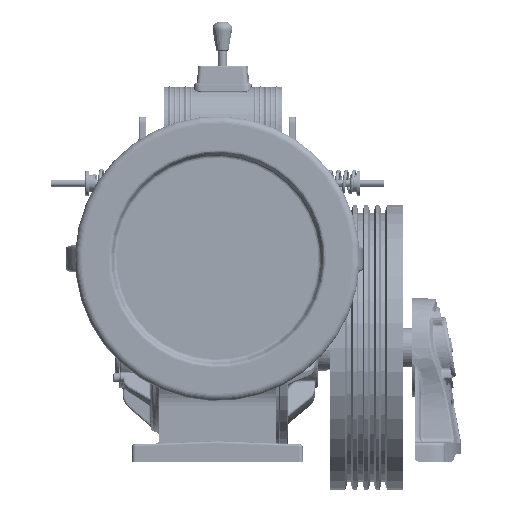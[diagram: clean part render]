
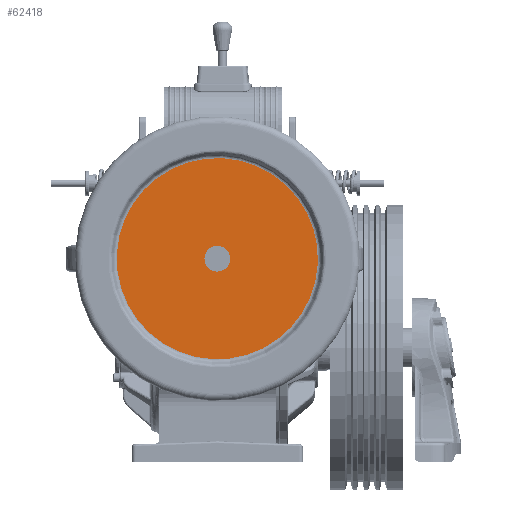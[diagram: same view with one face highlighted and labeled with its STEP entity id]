
A CAD part, front view. The second image highlights one B-rep face of the part: STEP entity #62418.
In plain terms, the highlighted planar face has unit normal (0, -1, 0).
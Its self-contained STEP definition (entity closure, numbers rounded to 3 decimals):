
#4581 = ORIENTED_EDGE ( 'NONE', *, *, #199126, .F. ) ;
#4637 = CIRCLE ( 'NONE', #147361, 141.34 ) ;
#5361 = DIRECTION ( 'NONE',  ( 0., -1., 0. ) ) ;
#7037 = PLANE ( 'NONE',  #120976 ) ;
#18014 = EDGE_CURVE ( 'NONE', #179018, #158107, #182267, .T. ) ;
#28859 = AXIS2_PLACEMENT_3D ( 'NONE', #211959, #74609, #42153 ) ;
#35558 = VERTEX_POINT ( 'NONE', #157398 ) ;
#37248 = CIRCLE ( 'NONE', #162140, 18.111 ) ;
#42153 = DIRECTION ( 'NONE',  ( -0.051, 0., -0.999 ) ) ;
#45866 = DIRECTION ( 'NONE',  ( -0.051, 0., -0.999 ) ) ;
#59237 = EDGE_LOOP ( 'NONE', ( #149992, #4581 ) ) ;
#62418 = ADVANCED_FACE ( 'NONE', ( #100174, #216390 ), #7037, .T. ) ;
#70191 = ORIENTED_EDGE ( 'NONE', *, *, #71276, .T. ) ;
#71276 = EDGE_CURVE ( 'NONE', #158107, #179018, #4637, .T. ) ;
#74609 = DIRECTION ( 'NONE',  ( 0., -1., 0. ) ) ;
#78171 = EDGE_LOOP ( 'NONE', ( #146257, #70191 ) ) ;
#84418 = DIRECTION ( 'NONE',  ( 0., -1., 0. ) ) ;
#88383 = CARTESIAN_POINT ( 'NONE',  ( -185.049, -551.369, 1266.979 ) ) ;
#100174 = FACE_OUTER_BOUND ( 'NONE', #78171, .T. ) ;
#106998 = CARTESIAN_POINT ( 'NONE',  ( -184.121, -551.369, 1285.066 ) ) ;
#120976 = AXIS2_PLACEMENT_3D ( 'NONE', #153806, #212565, #159008 ) ;
#122067 = CARTESIAN_POINT ( 'NONE',  ( -191.362, -551.369, 1143.912 ) ) ;
#141612 = DIRECTION ( 'NONE',  ( -0.051, 0., -0.999 ) ) ;
#146257 = ORIENTED_EDGE ( 'NONE', *, *, #18014, .T. ) ;
#147361 = AXIS2_PLACEMENT_3D ( 'NONE', #202283, #216795, #45866 ) ;
#149992 = ORIENTED_EDGE ( 'NONE', *, *, #195143, .F. ) ;
#150430 = CARTESIAN_POINT ( 'NONE',  ( -176.881, -551.369, 1426.22 ) ) ;
#153806 = CARTESIAN_POINT ( 'NONE',  ( -42.967, -551.369, 1277.825 ) ) ;
#155839 = CARTESIAN_POINT ( 'NONE',  ( -184.121, -551.369, 1285.066 ) ) ;
#157398 = CARTESIAN_POINT ( 'NONE',  ( -183.194, -551.369, 1303.153 ) ) ;
#158107 = VERTEX_POINT ( 'NONE', #150430 ) ;
#159008 = DIRECTION ( 'NONE',  ( -0.051, 0., -0.999 ) ) ;
#160630 = VERTEX_POINT ( 'NONE', #88383 ) ;
#162140 = AXIS2_PLACEMENT_3D ( 'NONE', #106998, #5361, #141612 ) ;
#162928 = CIRCLE ( 'NONE', #212982, 18.111 ) ;
#179018 = VERTEX_POINT ( 'NONE', #122067 ) ;
#182267 = CIRCLE ( 'NONE', #28859, 141.34 ) ;
#195143 = EDGE_CURVE ( 'NONE', #35558, #160630, #37248, .T. ) ;
#199126 = EDGE_CURVE ( 'NONE', #160630, #35558, #162928, .T. ) ;
#202283 = CARTESIAN_POINT ( 'NONE',  ( -184.121, -551.369, 1285.066 ) ) ;
#207204 = DIRECTION ( 'NONE',  ( -0.051, 0., -0.999 ) ) ;
#211959 = CARTESIAN_POINT ( 'NONE',  ( -184.121, -551.369, 1285.066 ) ) ;
#212565 = DIRECTION ( 'NONE',  ( 0., -1., 0. ) ) ;
#212982 = AXIS2_PLACEMENT_3D ( 'NONE', #155839, #84418, #207204 ) ;
#216390 = FACE_BOUND ( 'NONE', #59237, .T. ) ;
#216795 = DIRECTION ( 'NONE',  ( 0., -1., 0. ) ) ;
